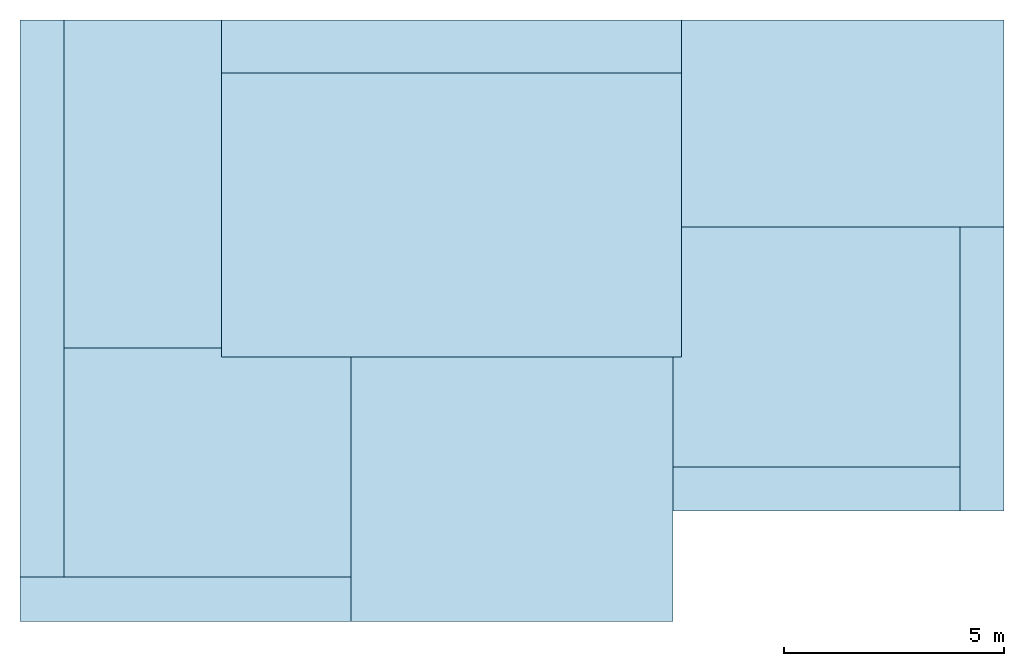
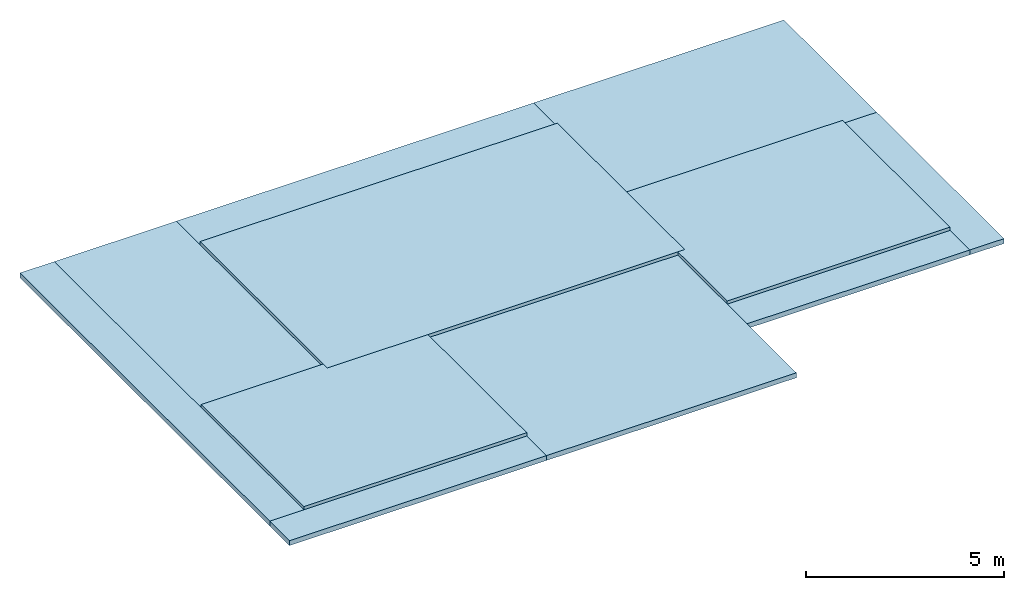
# One storey: 11 slabs.
"""IFC4 building model written with IfcOpenShell, lengths in metres."""

from ifc_helpers import new_model, entity, si_unit, converted_unit, frame, frame_2d, origin, origin_with_axes, place, context, subcontext, project, spatial, polyline, rectangle, outline, extrude, material, element, save


model = new_model("IFC4")

# Units and contexts
model_context = context("Model", 3, precision=1e-05, world=origin())
body_context = subcontext(model_context, "Body", "Model", "MODEL_VIEW")
ifc_project = project(units=[si_unit("LENGTHUNIT", "METRE"), si_unit("AREAUNIT", "SQUARE_METRE"), si_unit("VOLUMEUNIT", "CUBIC_METRE"), si_unit("MASSUNIT", "GRAM", prefix="KILO"), converted_unit("PLANEANGLEUNIT", "DEGREE", entity("IfcPlaneAngleMeasure", 0.0174532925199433), si_unit("PLANEANGLEUNIT", "RADIAN"), dimensions=[0, 0, 0, 0, 0, 0, 0])], contexts=[model_context])

# Building, storey
building_placement = place(None, origin())
building = spatial("IfcBuilding", under=ifc_project, at=building_placement, Name="Projet de Construction", CompositionType="ELEMENT")
storey_placement = place(building_placement, frame((0.0, 0.0, -0.25)))
storey = spatial("IfcBuildingStorey", under=building, at=storey_placement, Name="Plancher Bas", CompositionType="ELEMENT", Elevation=-0.25)

# Slabs
ifc_material_1 = material(Name="Plancher Hourdis type KP1")
slab_1_placement = place(storey_placement, frame((-10.6559375, -3.50020833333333, 5.6843418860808e-17)))
element("IfcSlab", 1, at=slab_1_placement, inside=storey, material=ifc_material_1, PredefinedType="FLOOR", context=body_context, shape_type="SweptSolid", body=[
    extrude(outline(polyline([(1.81898940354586e-15, 5.2), (0.0, 0.0), (6.51, 0.0), (6.51, 5.0), (3.57, 5.0), (3.57, 5.2), (1.81898940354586e-15, 5.2)])), origin_with_axes(), (0.0, 0.0, 1.0), 0.2),
])
ifc_material_2 = material(Name="Plancher Hourdis type KP1")
slab_2_placement = place(storey_placement, frame((-7.0859375, 1.49979166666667, 5.6843418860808e-17)))
element("IfcSlab", 2, at=slab_2_placement, inside=storey, material=ifc_material_2, PredefinedType="FLOOR", context=body_context, shape_type="SweptSolid", body=[
    extrude(rectangle(XDim=6.44, YDim=10.44, at=frame_2d((5.22, -3.22), x_axis=(0.0, -1.0))), frame((0.0, 6.44, 0.0), z_axis=(0.0, 0.0, 1.0), x_axis=(1.0, 0.0, 0.0)), (0.0, 0.0, 1.0), 0.2),
])
ifc_material_3 = material(Name="Plancher Hourdis type KP1")
slab_3_placement = place(storey_placement, frame((3.1540625, -1.00020833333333, 5.6843418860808e-17)))
element("IfcSlab", 3, at=slab_3_placement, inside=storey, material=ifc_material_3, PredefinedType="FLOOR", context=body_context, shape_type="SweptSolid", body=[
    extrude(outline(polyline([(0.200000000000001, 5.44), (0.2, 2.5), (4.54747350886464e-16, 2.5), (0.0, 0.0), (6.51, 0.0), (6.51, 5.44), (0.200000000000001, 5.44)])), origin_with_axes(), (0.0, 0.0, 1.0), 0.2),
])
ifc_material_4 = material()
slab_4_placement = place(storey_placement, frame((-11.6559375, -4.50020833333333, -0.05)))
element("IfcSlab", 4, at=slab_4_placement, inside=storey, material=ifc_material_4, PredefinedType="FLOOR", context=body_context, shape_type="SweptSolid", body=[
    extrude(rectangle(XDim=1.0, YDim=7.51, at=frame_2d((-3.755, 0.5), x_axis=(0.0, 1.0))), frame((7.51, 0.0, 0.0), z_axis=(0.0, 0.0, 1.0), x_axis=(1.0, 0.0, 0.0)), (0.0, 0.0, 1.0), 0.15),
])
ifc_material_5 = material()
slab_5_placement = place(storey_placement, frame((-11.6559375, -3.50020833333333, -0.05)))
element("IfcSlab", 5, at=slab_5_placement, inside=storey, material=ifc_material_5, PredefinedType="FLOOR", context=body_context, shape_type="SweptSolid", body=[
    extrude(rectangle(XDim=1.0, YDim=12.64, at=frame_2d((0.500000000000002, 6.32), x_axis=(1.0, 0.0))), origin_with_axes(), (0.0, 0.0, 1.0), 0.15),
])
ifc_material_6 = material()
slab_6_placement = place(storey_placement, frame((-10.6559375, 1.69979166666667, -0.05)))
element("IfcSlab", 6, at=slab_6_placement, inside=storey, material=ifc_material_6, PredefinedType="FLOOR", context=body_context, shape_type="SweptSolid", body=[
    extrude(rectangle(XDim=7.44, YDim=3.57, at=frame_2d((1.785, -3.72), x_axis=(0.0, -1.0))), frame((0.0, 7.44, 0.0), z_axis=(0.0, 0.0, 1.0), x_axis=(1.0, 0.0, 0.0)), (0.0, 0.0, 1.0), 0.15),
])
ifc_material_7 = material()
slab_7_placement = place(storey_placement, frame((-7.0859375, 7.93979166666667, -0.05)))
element("IfcSlab", 7, at=slab_7_placement, inside=storey, material=ifc_material_7, PredefinedType="FLOOR", context=body_context, shape_type="SweptSolid", body=[
    extrude(rectangle(XDim=1.2, YDim=10.44, at=frame_2d((5.22, -0.6), x_axis=(0.0, -1.0))), frame((0.0, 1.2, 0.0), z_axis=(0.0, 0.0, 1.0), x_axis=(1.0, 0.0, 0.0)), (0.0, 0.0, 1.0), 0.15),
])
ifc_material_8 = material()
slab_8_placement = place(storey_placement, frame((3.3540625, 4.43979166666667, -0.05)))
element("IfcSlab", 8, at=slab_8_placement, inside=storey, material=ifc_material_8, PredefinedType="FLOOR", context=body_context, shape_type="SweptSolid", body=[
    extrude(rectangle(XDim=4.7, YDim=7.31, at=frame_2d((3.655, -2.35), x_axis=(0.0, -1.0))), frame((0.0, 4.7, 0.0), z_axis=(0.0, 0.0, 1.0), x_axis=(1.0, 0.0, 0.0)), (0.0, 0.0, 1.0), 0.15),
])
ifc_material_9 = material()
slab_9_placement = place(storey_placement, frame((3.1540625, -2.00020833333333, -0.05)))
element("IfcSlab", 9, at=slab_9_placement, inside=storey, material=ifc_material_9, PredefinedType="FLOOR", context=body_context, shape_type="SweptSolid", body=[
    extrude(rectangle(XDim=1.0, YDim=6.51, at=frame_2d((-3.255, 0.5), x_axis=(0.0, 1.0))), frame((6.51, 0.0, 0.0), z_axis=(0.0, 0.0, 1.0), x_axis=(1.0, 0.0, 0.0)), (0.0, 0.0, 1.0), 0.15),
])
ifc_material_10 = material()
slab_10_placement = place(storey_placement, frame((9.6640625, -2.00020833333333, -0.05)))
element("IfcSlab", 10, at=slab_10_placement, inside=storey, material=ifc_material_10, PredefinedType="FLOOR", context=body_context, shape_type="SweptSolid", body=[
    extrude(rectangle(XDim=1.0, YDim=6.44, at=frame_2d((-0.5, -3.22), x_axis=(-1.0, 0.0))), frame((1.0, 6.44, 0.0), z_axis=(0.0, 0.0, 1.0), x_axis=(1.0, 0.0, 0.0)), (0.0, 0.0, 1.0), 0.15),
])
ifc_material_11 = material()
slab_11_placement = place(storey_placement, frame((-4.1459375, -4.50020833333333, -0.05)))
element("IfcSlab", 11, at=slab_11_placement, inside=storey, material=ifc_material_11, PredefinedType="FLOOR", context=body_context, shape_type="SweptSolid", body=[
    extrude(rectangle(XDim=7.3, YDim=6.0, at=frame_2d((-3.65, -3.0), x_axis=(-1.0, 0.0))), frame((7.3, 6.0, 0.0), z_axis=(0.0, 0.0, 1.0), x_axis=(1.0, 0.0, 0.0)), (0.0, 0.0, 1.0), 0.15),
])

save(model, "model.ifc")
